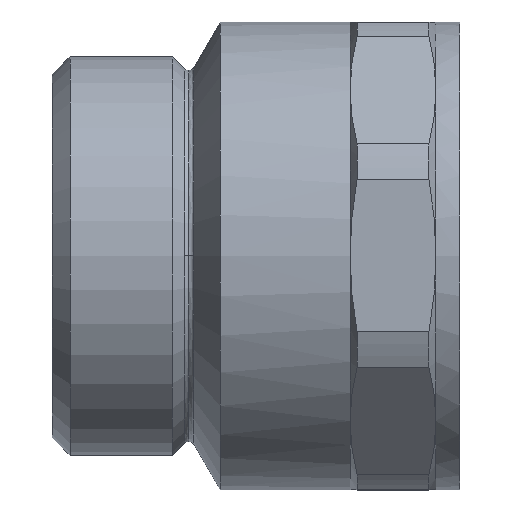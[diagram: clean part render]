
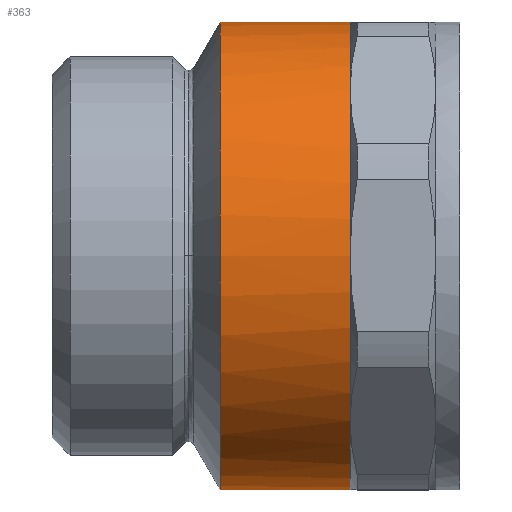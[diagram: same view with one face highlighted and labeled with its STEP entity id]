
A CAD part, top view. The second image highlights one B-rep face of the part: STEP entity #363.
In plain terms, the highlighted cylindrical face has radius 19.5 mm (diameter 39 mm), a partial arc.
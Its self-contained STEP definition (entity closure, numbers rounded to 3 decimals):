
#295=CARTESIAN_POINT('',(19.003,0.,0.0));
#296=DIRECTION('',(1.0,0.,0.0));
#297=DIRECTION('',(0.0,1.0,0.0));
#298=AXIS2_PLACEMENT_3D('',#295,#296,#297);
#299=CYLINDRICAL_SURFACE('',#298,19.5);
#300=CARTESIAN_POINT('',(14.014,19.5,0.));
#301=VERTEX_POINT('',#300);
#302=CARTESIAN_POINT('',(24.845,19.5,0.));
#303=VERTEX_POINT('',#302);
#304=CARTESIAN_POINT('',(14.014,19.5,0.));
#305=DIRECTION('',(1.0,0.0,0.0));
#306=VECTOR('',#305,10.831);
#307=LINE('',#304,#306);
#308=EDGE_CURVE('',#301,#303,#307,.T.);
#309=ORIENTED_EDGE('',*,*,#308,.F.);
#310=CARTESIAN_POINT('',(14.014,-19.5,0.));
#311=VERTEX_POINT('',#310);
#312=CARTESIAN_POINT('',(14.014,0.,0.0));
#313=DIRECTION('',(1.0,0.0,0.0));
#314=DIRECTION('',(0.0,1.0,0.0));
#315=AXIS2_PLACEMENT_3D('',#312,#313,#314);
#316=CIRCLE('',#315,19.5);
#317=EDGE_CURVE('',#301,#311,#316,.T.);
#318=ORIENTED_EDGE('',*,*,#317,.T.);
#319=CARTESIAN_POINT('',(24.845,-19.5,0.));
#320=VERTEX_POINT('',#319);
#321=CARTESIAN_POINT('',(24.845,-19.5,0.));
#322=DIRECTION('',(-1.0,0.0,0.0));
#323=VECTOR('',#322,10.831);
#324=LINE('',#321,#323);
#325=EDGE_CURVE('',#320,#311,#324,.T.);
#326=ORIENTED_EDGE('',*,*,#325,.F.);
#327=CARTESIAN_POINT('',(24.845,-13.789,13.789));
#328=VERTEX_POINT('',#327);
#329=CARTESIAN_POINT('',(24.845,0.,0.0));
#330=DIRECTION('',(1.0,0.0,0.0));
#331=DIRECTION('',(0.0,1.0,0.0));
#332=AXIS2_PLACEMENT_3D('',#329,#330,#331);
#333=CIRCLE('',#332,19.5);
#334=EDGE_CURVE('',#328,#320,#333,.T.);
#335=ORIENTED_EDGE('',*,*,#334,.F.);
#336=CARTESIAN_POINT('',(24.845,0.,19.5));
#337=VERTEX_POINT('',#336);
#338=CARTESIAN_POINT('',(24.845,0.,0.0));
#339=DIRECTION('',(1.0,0.0,0.0));
#340=DIRECTION('',(0.0,1.0,0.0));
#341=AXIS2_PLACEMENT_3D('',#338,#339,#340);
#342=CIRCLE('',#341,19.5);
#343=EDGE_CURVE('',#337,#328,#342,.T.);
#344=ORIENTED_EDGE('',*,*,#343,.F.);
#345=CARTESIAN_POINT('',(24.845,13.789,13.789));
#346=VERTEX_POINT('',#345);
#347=CARTESIAN_POINT('',(24.845,0.,0.0));
#348=DIRECTION('',(1.0,0.0,0.0));
#349=DIRECTION('',(0.0,1.0,0.0));
#350=AXIS2_PLACEMENT_3D('',#347,#348,#349);
#351=CIRCLE('',#350,19.5);
#352=EDGE_CURVE('',#346,#337,#351,.T.);
#353=ORIENTED_EDGE('',*,*,#352,.F.);
#354=CARTESIAN_POINT('',(24.845,0.,0.0));
#355=DIRECTION('',(1.0,0.0,0.0));
#356=DIRECTION('',(0.0,1.0,0.0));
#357=AXIS2_PLACEMENT_3D('',#354,#355,#356);
#358=CIRCLE('',#357,19.5);
#359=EDGE_CURVE('',#303,#346,#358,.T.);
#360=ORIENTED_EDGE('',*,*,#359,.F.);
#361=EDGE_LOOP('',(#309,#318,#326,#335,#344,#353,#360));
#362=FACE_OUTER_BOUND('',#361,.T.);
#363=ADVANCED_FACE('',(#362),#299,.T.);
